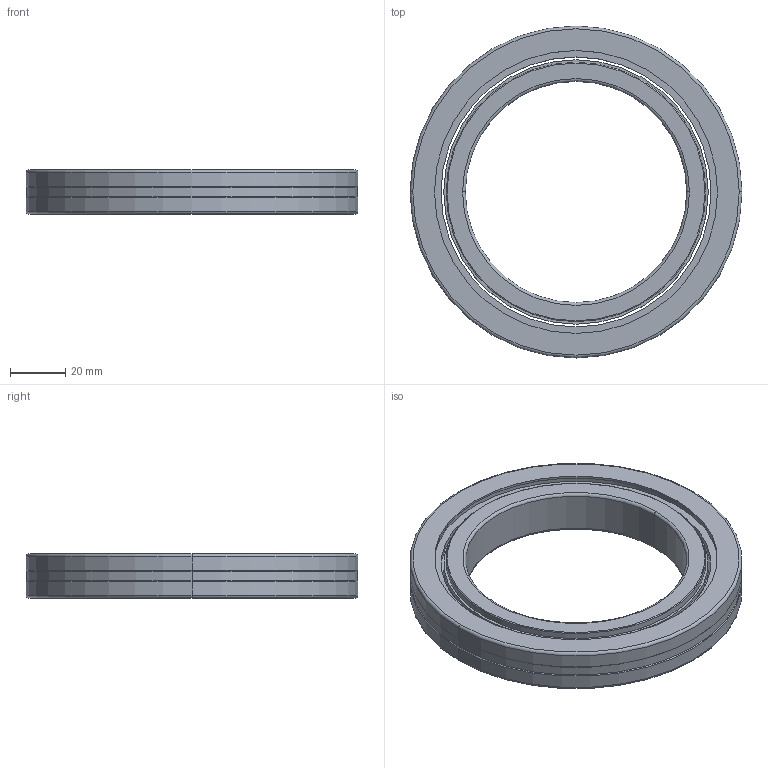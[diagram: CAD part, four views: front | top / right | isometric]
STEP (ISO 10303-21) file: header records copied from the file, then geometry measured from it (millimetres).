
FILE_DESCRIPTION((''),'2;1');
FILE_NAME('CRBH8016','2017-07-28T',('Administrator'),(''),'PRO/ENGINEER BY PARAMETRIC TECHNOLOGY CORPORATION, 2010180','PRO/ENGINEER BY PARAMETRIC TECHNOLOGY CORPORATION, 2010180','');
FILE_SCHEMA(('AUTOMOTIVE_DESIGN_CC2 { 1 2 10303 214 -1 1 5 2 }'));
Length unit declared in the file: millimetre
Products named in the file (1): CRBH8016
Bounding box: 120 x 120 x 16 mm (x, y, z)
Volume: 81063.6 mm3; surface area: 33581.3 mm2
Topology: 2 solids, 2 shells, 62 faces, 1635 edges, 1585 vertices
Faces by surface type: cylinder 28, torus 12, cone 12, plane 10
Entity records: 15746 total; most frequent: DIRECTION 1851, CARTESIAN_POINT 1770, PRESENTATION_STYLE_ASSIGNMENT 1569, STYLED_ITEM 1569, VECTOR 1545, LINE 1545, CURVE_STYLE 1512, TRIMMED_CURVE 1511
